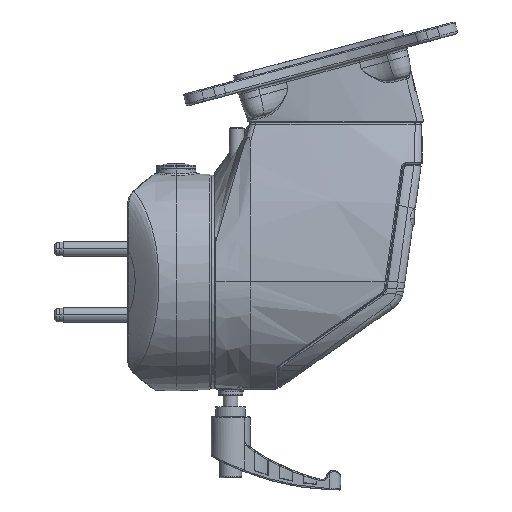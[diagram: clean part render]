
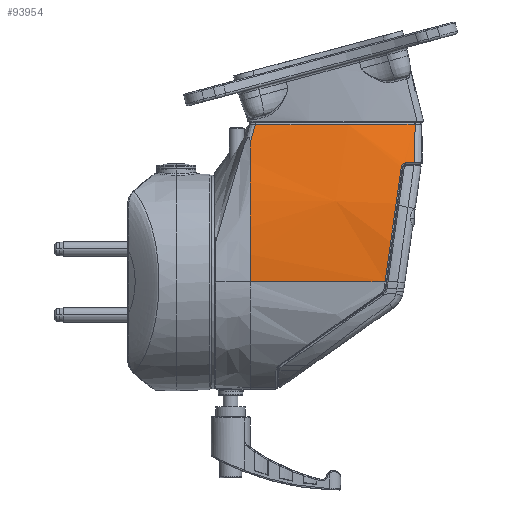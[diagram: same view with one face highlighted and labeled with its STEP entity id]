
A CAD part, left-side view. The second image highlights one B-rep face of the part: STEP entity #93954.
In plain terms, the highlighted free-form (B-spline) face has degree [3, 3] with [5, 5] control points.
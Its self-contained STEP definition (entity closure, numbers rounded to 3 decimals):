
#60192=DIRECTION('',(0.,1.,0.));
#60193=VECTOR('',#60192,55.175);
#60194=CARTESIAN_POINT('',(44.,15.,0.));
#60195=LINE('',#60194,#60193);
#60213=CARTESIAN_POINT('',(29.618,17.142,64.427));
#60214=CARTESIAN_POINT('',(29.942,16.914,63.661));
#60215=CARTESIAN_POINT('',(30.599,16.45,62.085));
#60216=CARTESIAN_POINT('',(31.612,15.732,59.574));
#60217=CARTESIAN_POINT('',(32.294,15.244,57.817));
#60218=CARTESIAN_POINT('',(32.637,14.998,56.916));
#60223=CARTESIAN_POINT('',(29.684,82.445,64.425));
#60224=CARTESIAN_POINT('',(29.917,80.971,64.419));
#60225=CARTESIAN_POINT('',(30.35,78.022,64.409));
#60226=CARTESIAN_POINT('',(30.886,73.768,64.395));
#60227=CARTESIAN_POINT('',(31.368,69.176,64.383));
#60228=CARTESIAN_POINT('',(31.763,64.35,64.372));
#60229=CARTESIAN_POINT('',(32.058,59.248,64.364));
#60230=CARTESIAN_POINT('',(32.228,53.968,64.36));
#60231=CARTESIAN_POINT('',(32.262,48.659,64.359));
#60232=CARTESIAN_POINT('',(32.16,43.417,64.362));
#60233=CARTESIAN_POINT('',(31.928,38.22,64.368));
#60234=CARTESIAN_POINT('',(31.577,33.185,64.377));
#60235=CARTESIAN_POINT('',(31.114,28.244,64.389));
#60236=CARTESIAN_POINT('',(30.503,23.055,64.405));
#60237=CARTESIAN_POINT('',(29.943,19.17,64.419));
#60238=CARTESIAN_POINT('',(29.618,17.142,64.427));
#60243=CARTESIAN_POINT('',(29.684,82.445,64.425));
#60244=CARTESIAN_POINT('',(30.161,82.432,63.41));
#60245=CARTESIAN_POINT('',(31.092,82.405,61.367));
#60246=CARTESIAN_POINT('',(32.424,82.366,58.263));
#60247=CARTESIAN_POINT('',(33.687,82.33,55.124));
#60248=CARTESIAN_POINT('',(34.882,82.295,51.951));
#60249=CARTESIAN_POINT('',(35.631,82.273,49.816));
#60250=CARTESIAN_POINT('',(35.994,82.262,48.743));
#60255=CARTESIAN_POINT('',(36.295,78.734,48.676));
#60256=CARTESIAN_POINT('',(36.263,79.126,48.684));
#60257=CARTESIAN_POINT('',(36.199,79.909,48.699));
#60258=CARTESIAN_POINT('',(36.099,81.085,48.721));
#60259=CARTESIAN_POINT('',(36.029,81.87,48.736));
#60260=CARTESIAN_POINT('',(35.994,82.262,48.743));
#60265=CARTESIAN_POINT('',(36.975,76.784,46.947));
#60266=CARTESIAN_POINT('',(36.914,76.811,47.139));
#60267=CARTESIAN_POINT('',(36.79,76.922,47.519));
#60268=CARTESIAN_POINT('',(36.616,77.241,48.008));
#60269=CARTESIAN_POINT('',(36.467,77.674,48.381));
#60270=CARTESIAN_POINT('',(36.354,78.191,48.617));
#60271=CARTESIAN_POINT('',(36.309,78.551,48.673));
#60272=CARTESIAN_POINT('',(36.295,78.734,48.676));
#60277=CARTESIAN_POINT('',(44.,70.175,0.));
#60278=CARTESIAN_POINT('',(44.,70.748,4.089));
#60279=CARTESIAN_POINT('',(43.697,71.904,12.328));
#60280=CARTESIAN_POINT('',(42.356,73.583,24.273));
#60281=CARTESIAN_POINT('',(40.141,75.222,35.904));
#60282=CARTESIAN_POINT('',(38.132,76.264,43.276));
#60283=CARTESIAN_POINT('',(36.975,76.784,46.947));
#60782=CARTESIAN_POINT('',(32.637,14.998,56.916));
#60820=CARTESIAN_POINT('',(-104.245,15.,0.));
#60821=DIRECTION('',(0.,-1.,0.));
#60822=DIRECTION('',(0.974,0.,0.225));
#60823=AXIS2_PLACEMENT_3D('',#60820,#60821,#60822);
#60828=CARTESIAN_POINT('',(-104.245,15.,0.));
#60829=DIRECTION('',(0.,-1.,0.));
#60830=DIRECTION('',(1.,0.,0.));
#60831=AXIS2_PLACEMENT_3D('',#60828,#60829,#60830);
#71123=CARTESIAN_POINT('',(44.,15.,0.));
#71124=CARTESIAN_POINT('',(40.209,15.,33.31));
#71125=VERTEX_POINT('',#71123);
#71126=VERTEX_POINT('',#71124);
#71147=VERTEX_POINT('',#60782);
#71163=VERTEX_POINT('',#60277);
#71164=VERTEX_POINT('',#60283);
#71343=VERTEX_POINT('',#60213);
#71786=VERTEX_POINT('',#60243);
#71787=VERTEX_POINT('',#60250);
#72213=VERTEX_POINT('',#60255);
#93910=CARTESIAN_POINT('',(28.86,14.329,65.027));
#93911=CARTESIAN_POINT('',(30.946,26.219,65.028));
#93912=CARTESIAN_POINT('',(32.957,49.147,65.029));
#93913=CARTESIAN_POINT('',(31.09,72.076,65.028));
#93914=CARTESIAN_POINT('',(29.293,83.113,65.028));
#93915=CARTESIAN_POINT('',(33.822,14.329,54.947));
#93916=CARTESIAN_POINT('',(35.218,26.219,54.833));
#93917=CARTESIAN_POINT('',(36.63,49.147,54.522));
#93918=CARTESIAN_POINT('',(35.319,72.076,54.811));
#93919=CARTESIAN_POINT('',(34.112,83.113,54.922));
#93920=CARTESIAN_POINT('',(41.505,14.329,33.435));
#93921=CARTESIAN_POINT('',(41.858,26.219,33.179));
#93922=CARTESIAN_POINT('',(42.166,49.147,32.982));
#93923=CARTESIAN_POINT('',(41.88,72.076,33.165));
#93924=CARTESIAN_POINT('',(41.578,83.113,33.382));
#93925=CARTESIAN_POINT('',(44.05,14.329,10.753));
#93926=CARTESIAN_POINT('',(44.045,26.219,10.672));
#93927=CARTESIAN_POINT('',(44.036,49.147,10.699));
#93928=CARTESIAN_POINT('',(44.044,72.076,10.674));
#93929=CARTESIAN_POINT('',(44.049,83.113,10.737));
#93930=CARTESIAN_POINT('',(43.999,14.329,
-0.663));
#93931=CARTESIAN_POINT('',(43.999,26.219,
-0.658));
#93932=CARTESIAN_POINT('',(43.999,49.147,
-0.659));
#93933=CARTESIAN_POINT('',(43.999,72.076,
-0.658));
#93934=CARTESIAN_POINT('',(43.999,83.113,
-0.662));
#93935=B_SPLINE_SURFACE_WITH_KNOTS('',3,3,((#93910,#93911,#93912,#93913,#93914),
(#93915,#93916,#93917,#93918,#93919),(#93920,#93921,#93922,#93923,#93924),(
#93925,#93926,#93927,#93928,#93929),(#93930,#93931,#93932,#93933,#93934)),
.UNSPECIFIED.,.F.,.F.,.F.,(4,1,4),(4,1,4),(0.,0.5,
1.01),(-0.672,35.043,68.197),
.UNSPECIFIED.);
#93937=ORIENTED_EDGE('',*,*,#93936,.F.);
#93939=ORIENTED_EDGE('',*,*,#93938,.F.);
#93941=ORIENTED_EDGE('',*,*,#93940,.T.);
#93943=ORIENTED_EDGE('',*,*,#93942,.F.);
#93945=ORIENTED_EDGE('',*,*,#93944,.F.);
#93946=ORIENTED_EDGE('',*,*,#93894,.F.);
#93947=ORIENTED_EDGE('',*,*,#93797,.F.);
#93949=ORIENTED_EDGE('',*,*,#93948,.T.);
#93951=ORIENTED_EDGE('',*,*,#93950,.T.);
#93952=EDGE_LOOP('',(#93937,#93939,#93941,#93943,#93945,#93946,#93947,#93949,
#93951));
#93953=FACE_OUTER_BOUND('',#93952,.F.);
#60219=B_SPLINE_CURVE_WITH_KNOTS('',3,(#60213,#60214,#60215,#60216,#60217,
#60218),.UNSPECIFIED.,.F.,.F.,(4,1,1,4),(0.,0.333,
0.667,1.),.UNSPECIFIED.);
#60239=B_SPLINE_CURVE_WITH_KNOTS('',3,(#60223,#60224,#60225,#60226,#60227,
#60228,#60229,#60230,#60231,#60232,#60233,#60234,#60235,#60236,#60237,#60238),
.UNSPECIFIED.,.F.,.F.,(4,1,1,1,1,1,1,1,1,1,1,1,1,4),(0.,0.077,
0.154,0.231,0.308,0.385,
0.462,0.538,0.615,0.692,
0.769,0.846,0.923,1.),.UNSPECIFIED.);
#60251=B_SPLINE_CURVE_WITH_KNOTS('',3,(#60243,#60244,#60245,#60246,#60247,
#60248,#60249,#60250),.UNSPECIFIED.,.F.,.F.,(4,1,1,1,1,4),(0.,0.2,0.4,
0.6,0.8,1.),.UNSPECIFIED.);
#60261=B_SPLINE_CURVE_WITH_KNOTS('',3,(#60255,#60256,#60257,#60258,#60259,
#60260),.UNSPECIFIED.,.F.,.F.,(4,1,1,4),(0.,0.333,
0.667,1.),.UNSPECIFIED.);
#60273=B_SPLINE_CURVE_WITH_KNOTS('',3,(#60265,#60266,#60267,#60268,#60269,
#60270,#60271,#60272),.UNSPECIFIED.,.F.,.F.,(4,1,1,1,1,4),(0.,
0.2,0.4,0.6,0.8,1.),
.UNSPECIFIED.);
#60284=B_SPLINE_CURVE_WITH_KNOTS('',3,(#60277,#60278,#60279,#60280,#60281,
#60282,#60283),.UNSPECIFIED.,.F.,.F.,(4,1,1,1,4),(0.,0.25,0.5,0.75,
1.),.UNSPECIFIED.);
#60824=CIRCLE('',#60823,148.245);
#60832=CIRCLE('',#60831,148.245);
#93797=EDGE_CURVE('',#71125,#71163,#60195,.T.);
#93894=EDGE_CURVE('',#71163,#71164,#60284,.T.);
#93936=EDGE_CURVE('',#71343,#71147,#60219,.T.);
#93938=EDGE_CURVE('',#71786,#71343,#60239,.T.);
#93940=EDGE_CURVE('',#71786,#71787,#60251,.T.);
#93942=EDGE_CURVE('',#72213,#71787,#60261,.T.);
#93944=EDGE_CURVE('',#71164,#72213,#60273,.T.);
#93948=EDGE_CURVE('',#71125,#71126,#60832,.T.);
#93950=EDGE_CURVE('',#71126,#71147,#60824,.T.);
#93954=ADVANCED_FACE('',(#93953),#93935,.T.);
